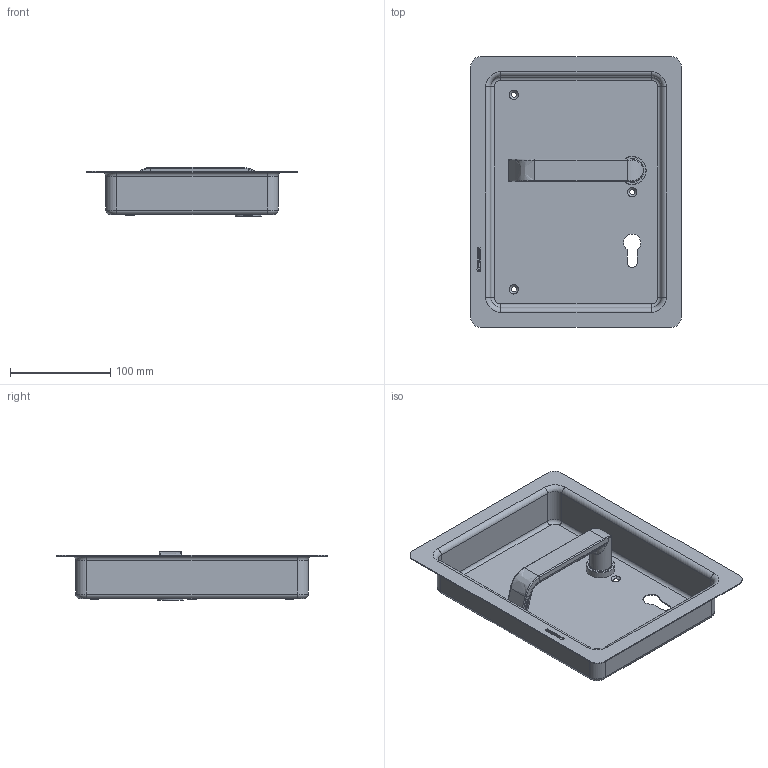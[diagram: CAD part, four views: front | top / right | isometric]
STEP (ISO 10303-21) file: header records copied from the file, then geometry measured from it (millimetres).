
FILE_DESCRIPTION(/* description */ (''),/* implementation_level */ '2;1');
FILE_NAME(/* name */ 'C:\ADSK_DMS_WS\Designs\Vorschläge\Loc Schalen\Muschel Serie 6\S6.42.D2Links\Heusser-Muschel S6.42.D2.372L.stp',/* time_stamp */ '2020-10-14T10:55:09+02:00',/* author */ ('gm'),/* organization */ (''),/* preprocessor_version */ 'ST-DEVELOPER v16.5',/* originating_system */ 'Autodesk Inventor 2017',/* authorisation */ '');
FILE_SCHEMA (('AUTOMOTIVE_DESIGN { 1 0 10303 214 3 1 1 }'));
Length unit declared in the file: millimetre
Products named in the file (1): S6.42.D2.0L
Bounding box: 210 x 270 x 49 mm (x, y, z)
Volume: 130167.6 mm3; surface area: 188132.8 mm2
Topology: 1 solids, 2 shells, 611 faces, 1606 edges, 1040 vertices
Faces by surface type: plane 296, bspline 208, cylinder 70, torus 21, cone 16
Full cylindrical faces by diameter (mm): 1.7 x2, 6 x1, 14.2 x1, 16 x3, 18 x1, 19 x1, 19.1 x1, 22 x1, 23 x1, 23.2 x1, 24 x1, 25 x1, 26 x1, 28 x1
Entity records: 20905 total; most frequent: CARTESIAN_POINT 6371, ORIENTED_EDGE 3122, DIRECTION 2333, EDGE_CURVE 1561, VERTEX_POINT 1032, LINE 961, VECTOR 961, EDGE_LOOP 709
